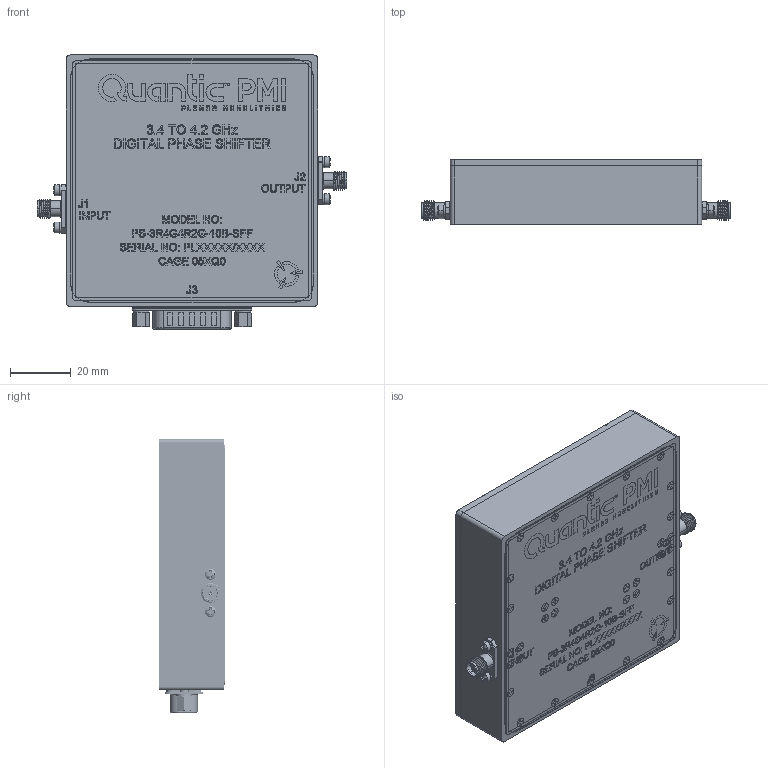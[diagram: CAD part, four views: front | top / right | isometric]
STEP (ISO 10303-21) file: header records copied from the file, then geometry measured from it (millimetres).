
FILE_DESCRIPTION (( 'STEP AP214' ), '1' );
FILE_NAME ('PS-3R4G4R2G-10B-SFF.STEP', '2025-12-05T15:16:53', ( '' ), ( '' ), 'SwSTEP 2.0', 'SolidWorks 2025', '' );
FILE_SCHEMA (( 'AUTOMOTIVE_DESIGN' ));
Length unit declared in the file: millimetre
Products named in the file (1): PS-3R4G4R2G-10B-SFF
Bounding box: 101.75 x 21.39 x 89.97 mm (x, y, z)
Volume: 88444.7 mm3; surface area: 72613.7 mm2
Topology: 98 solids, 98 shells, 3976 faces, 11336 edges, 7797 vertices
Faces by surface type: plane 1963, cylinder 1178, cone 589, torus 166, sphere 66, bspline 14
Entity records: 171114 total; most frequent: CARTESIAN_POINT 36497, ORIENTED_EDGE 22164, DIRECTION 20742, EDGE_CURVE 11082, VERTEX_POINT 7789, AXIS2_PLACEMENT_3D 7533, VECTOR 5676, LINE 5676
